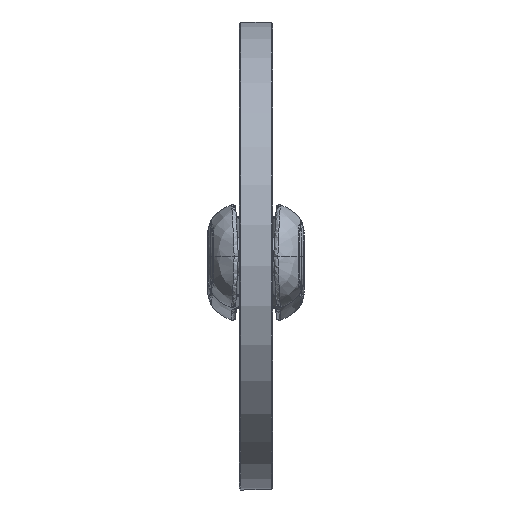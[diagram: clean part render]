
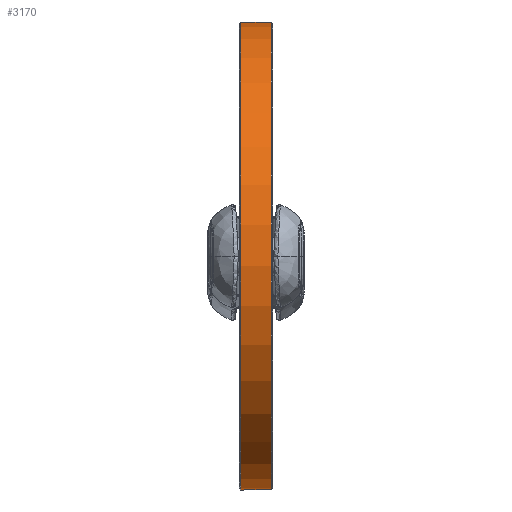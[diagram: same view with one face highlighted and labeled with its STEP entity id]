
A CAD part, top view. The second image highlights one B-rep face of the part: STEP entity #3170.
In plain terms, the highlighted cylindrical face has radius 522.5 mm (diameter 1045 mm), a full revolution.
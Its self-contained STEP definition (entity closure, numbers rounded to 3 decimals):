
#659=CYLINDRICAL_SURFACE($,#3528,522.5);
#766=FACE_BOUND($,#1292,.T.);
#982=FACE_OUTER_BOUND($,#1291,.T.);
#1291=EDGE_LOOP($,(#2906));
#1292=EDGE_LOOP($,(#2907));
#1487=CIRCLE($,#3527,522.5);
#1488=CIRCLE($,#3529,522.5);
#1760=VERTEX_POINT($,#13909);
#1761=VERTEX_POINT($,#13912);
#2147=EDGE_CURVE($,#1760,#1760,#1487,.T.);
#2148=EDGE_CURVE($,#1761,#1761,#1488,.T.);
#2906=ORIENTED_EDGE($,*,*,#2148,.F.);
#2907=ORIENTED_EDGE($,*,*,#2147,.F.);
#3170=ADVANCED_FACE($,(#982,#766),#659,.T.);
#3527=AXIS2_PLACEMENT_3D($,#13910,#4284,#4285);
#3528=AXIS2_PLACEMENT_3D($,#13911,#4286,#4287);
#3529=AXIS2_PLACEMENT_3D($,#13913,#4288,#4289);
#4284=DIRECTION('center_axis',(0.,0.,-1.));
#4285=DIRECTION('ref_axis',(-1.,0.,0.));
#4286=DIRECTION('center_axis',(0.,0.,1.));
#4287=DIRECTION('ref_axis',(-1.,0.,0.));
#4288=DIRECTION('center_axis',(0.,0.,1.));
#4289=DIRECTION('ref_axis',(-1.,0.,0.));
#13909=CARTESIAN_POINT('',(522.5,0.,-33.5));
#13910=CARTESIAN_POINT('Origin',(0.,0.,-33.5));
#13911=CARTESIAN_POINT('Origin',(0.,0.,0.));
#13912=CARTESIAN_POINT('',(522.5,0.,33.5));
#13913=CARTESIAN_POINT('Origin',(0.,0.,33.5));
